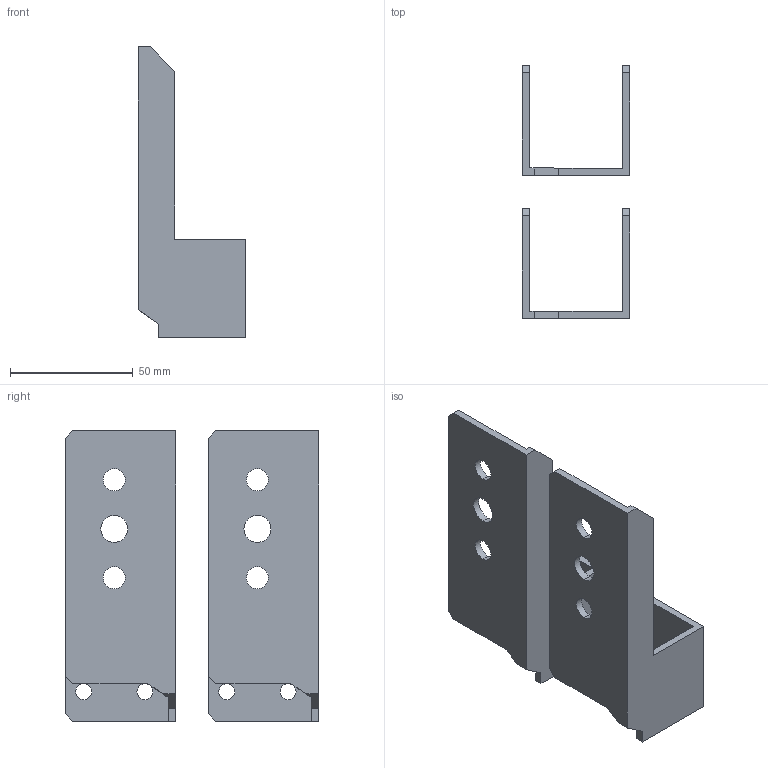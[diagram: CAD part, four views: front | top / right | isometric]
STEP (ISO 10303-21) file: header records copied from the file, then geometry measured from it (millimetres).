
FILE_DESCRIPTION (( 'STEP AP214' ), '1' );
FILE_NAME ('FO-00-NPE-3 Êðîíøòåéí N-PE òèï 3 (2 øò.óïàê.).STEP', '2025-09-24T07:00:45', ( '' ), ( '' ), 'SwSTEP 2.0', 'SolidWorks 2023', '' );
FILE_SCHEMA (( 'AUTOMOTIVE_DESIGN' ));
Length unit declared in the file: millimetre
Products named in the file (2): FO-00-NPE-3 Кронштейн N-PE тип 3 (2 шт.упак.); Кронштейн N-PE_3_пластроны
Assembly tree (2 placements, depth 2):
  FO-00-NPE-3 Кронштейн N-PE тип 3 (2 шт.упак.)
    Кронштейн N-PE_3_пластроны  x2
Bounding box: 44 x 103.41 x 118.5 mm (x, y, z)
Volume: 51255 mm3; surface area: 37796 mm2
Topology: 2 solids, 2 shells, 62 faces, 174 edges, 116 vertices
Faces by surface type: plane 42, cylinder 20
Entity records: 1084 total; most frequent: CARTESIAN_POINT 181, DIRECTION 179, ORIENTED_EDGE 174, EDGE_CURVE 87, LINE 67, VECTOR 67, VERTEX_POINT 58, AXIS2_PLACEMENT_3D 56
